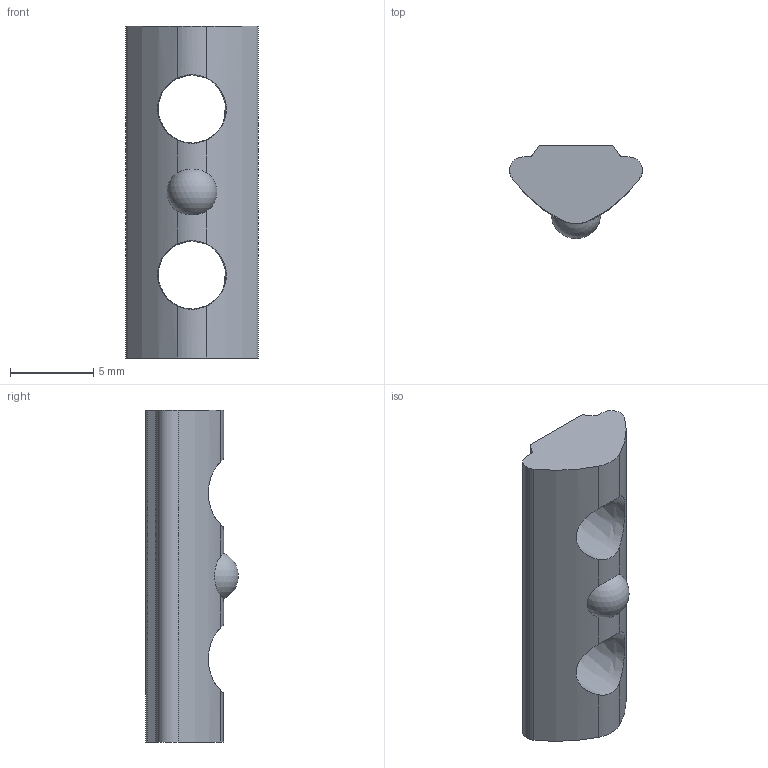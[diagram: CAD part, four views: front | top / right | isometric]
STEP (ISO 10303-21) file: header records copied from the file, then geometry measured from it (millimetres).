
FILE_DESCRIPTION((''),'2;1');
FILE_NAME('K:\Technik\CAD-Daten\EOAT\GR01_\GR01.081\GR01.081.stp','2007-09-07T10:07:47',('RKob'),(''),'Autodesk Inventor 11','Autodesk Inventor 11','');
FILE_SCHEMA(('AUTOMOTIVE_DESIGN { 1 0 10303 214 1 1 1 1 }'));
Length unit declared in the file: millimetre
Products named in the file (1): GR01
Bounding box: 8 x 5.6 x 20 mm (x, y, z)
Volume: 419.6 mm3; surface area: 515.9 mm2
Topology: 1 solids, 1 shells, 22 faces, 66 edges, 44 vertices
Faces by surface type: cylinder 12, plane 7, bspline 2, sphere 1
Entity records: 962 total; most frequent: CARTESIAN_POINT 368, ORIENTED_EDGE 124, DIRECTION 112, EDGE_CURVE 62, VERTEX_POINT 42, AXIS2_PLACEMENT_3D 41, VECTOR 30, LINE 30
